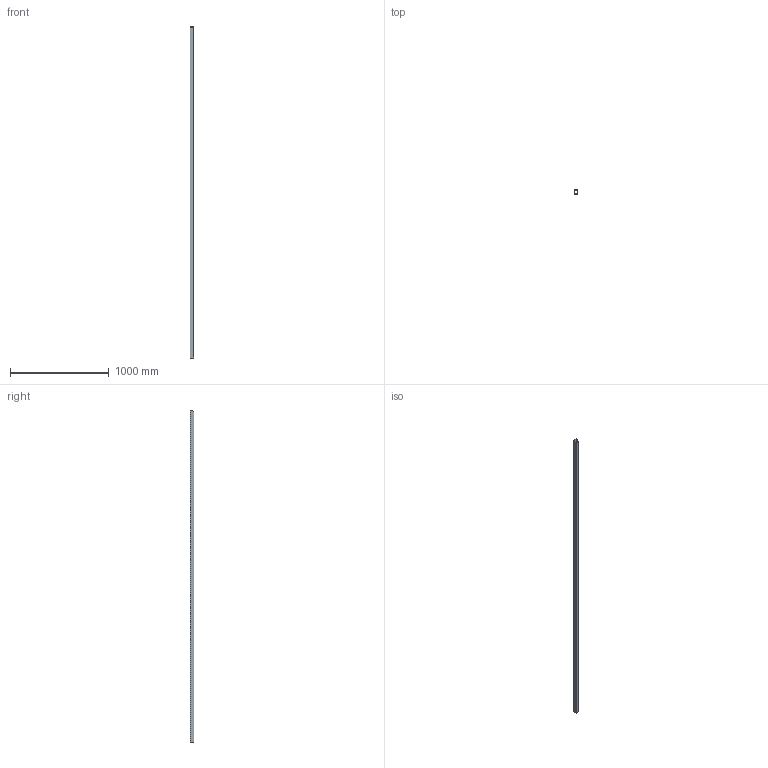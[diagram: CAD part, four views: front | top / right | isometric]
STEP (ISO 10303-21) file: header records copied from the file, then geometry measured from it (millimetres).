
FILE_DESCRIPTION(('Open CASCADE Model'),'2;1');
FILE_NAME('Open CASCADE Shape Model','2026-10-15T15:10:07',('Author'),( 'Open CASCADE'),'Open CASCADE STEP processor 8.0','Open CASCADE 8.0' ,'Unknown');
FILE_SCHEMA(('AUTOMOTIVE_DESIGN { 1 0 10303 214 1 1 1 1 }'));
Length unit declared in the file: millimetre
Products named in the file (1): SHS40x40x3_L3357253_P05_JUNTA_19 200
Bounding box: 40 x 40 x 3357.25 mm (x, y, z)
Volume: 1487917.5 mm3; surface area: 992892.5 mm2
Topology: 1 solids, 1 shells, 16 faces, 44 edges, 29 vertices
Faces by surface type: plane 11, cylinder 4, sphere 1
Entity records: 1152 total; most frequent: CARTESIAN_POINT 286, DIRECTION 150, LINE 89, VECTOR 89, ORIENTED_EDGE 88, PCURVE 88, DEFINITIONAL_REPRESENTATION 88, EDGE_CURVE 44
